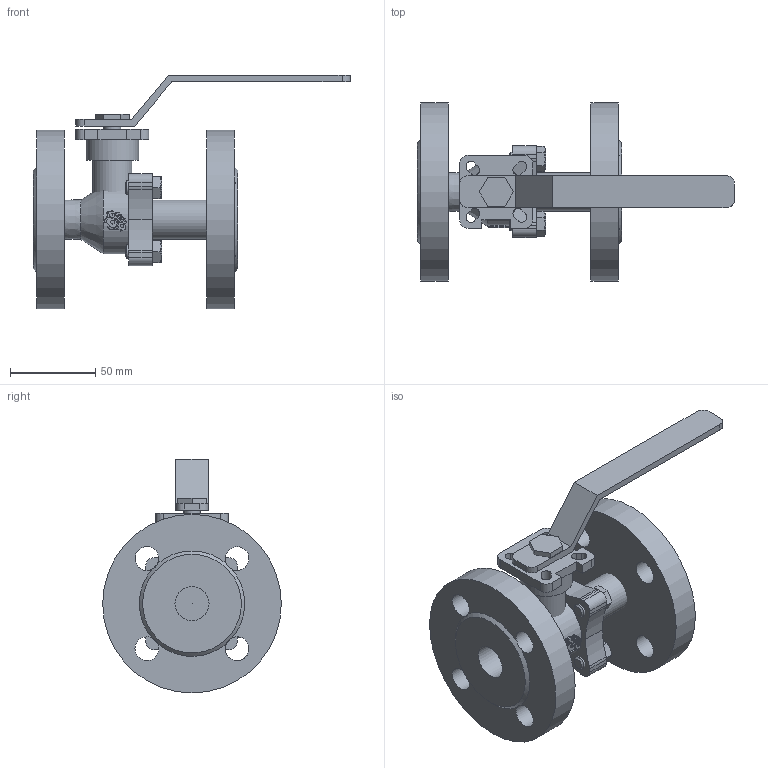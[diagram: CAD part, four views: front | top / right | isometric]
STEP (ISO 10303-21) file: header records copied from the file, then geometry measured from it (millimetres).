
FILE_DESCRIPTION(('STEP AP203'), '1');
FILE_NAME('3D_7528-020-40_1', '', ('UNSPECIFIED'), ('UNSPECIFIED'), 'C3D Converter', 'C3D Toolkit', '');
FILE_SCHEMA(('CONFIG_CONTROL_DESIGN'));
Length unit declared in the file: millimetre
Bounding box: 186.39 x 105 x 137.5 mm (x, y, z)
Volume: 397318.5 mm3; surface area: 91126 mm2
Topology: 21 solids, 21 shells, 1002 faces, 2918 edges, 1958 vertices
Faces by surface type: plane 921, cylinder 64, cone 13, torus 4
Full cylindrical faces by diameter (mm): 8 x4, 10 x2, 14 x8, 20 x2, 23 x2, 31 x1, 40 x1, 105 x2
Entity records: 42438 total; most frequent: CARTESIAN_POINT 9966, ORIENTED_EDGE 5754, DIRECTION 4240, EDGE_CURVE 2877, VERTEX_POINT 1956, LINE 1846, VECTOR 1846, AXIS2_PLACEMENT_3D 1197
